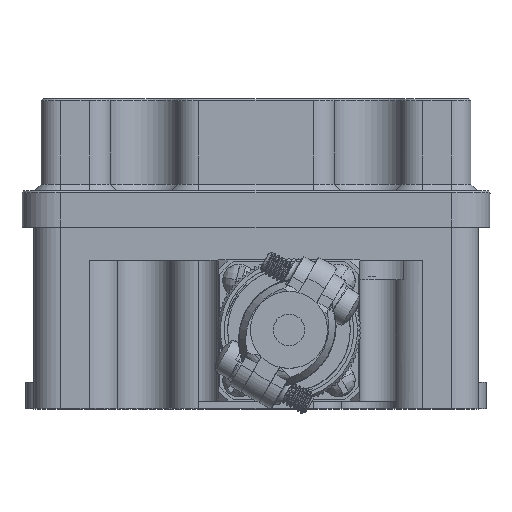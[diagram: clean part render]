
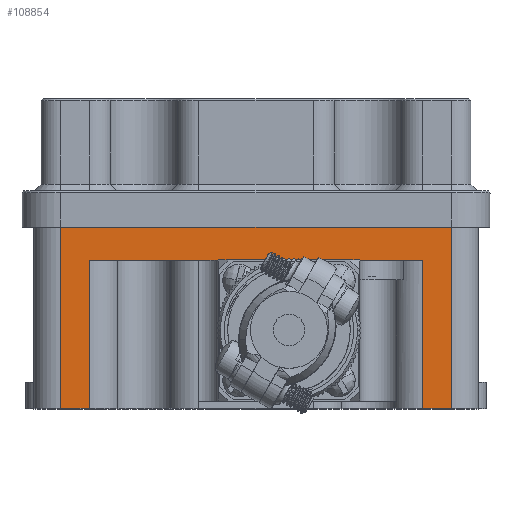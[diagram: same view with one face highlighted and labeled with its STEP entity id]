
A CAD part, top view. The second image highlights one B-rep face of the part: STEP entity #108854.
In plain terms, the highlighted planar face has unit normal (0, 0, 1).
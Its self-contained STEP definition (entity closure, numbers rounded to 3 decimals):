
#346 = CARTESIAN_POINT ( 'NONE',  ( -29.65, -41.945, 33.75 ) ) ;
#7347 = VERTEX_POINT ( 'NONE', #151745 ) ;
#7424 = CARTESIAN_POINT ( 'NONE',  ( -8.699, -5., 33.75 ) ) ;
#8377 = CARTESIAN_POINT ( 'NONE',  ( -8.699, -5., 33.75 ) ) ;
#9302 = EDGE_CURVE ( 'NONE', #108836, #9372, #119914, .T. ) ;
#9372 = VERTEX_POINT ( 'NONE', #104551 ) ;
#11167 = VERTEX_POINT ( 'NONE', #24350 ) ;
#11914 = CARTESIAN_POINT ( 'NONE',  ( -25.307, -27.5, 33.75 ) ) ;
#13749 = EDGE_CURVE ( 'NONE', #48017, #124423, #118477, .T. ) ;
#14205 = ORIENTED_EDGE ( 'NONE', *, *, #162630, .F. ) ;
#15402 = DIRECTION ( 'NONE',  ( -1., 0., 0. ) ) ;
#18271 = DIRECTION ( 'NONE',  ( 0., 1., 0. ) ) ;
#19562 = LINE ( 'NONE', #119089, #89259 ) ;
#20461 = CARTESIAN_POINT ( 'NONE',  ( 30.3, -27.5, 33.75 ) ) ;
#24350 = CARTESIAN_POINT ( 'NONE',  ( -25.307, -5., 33.75 ) ) ;
#24408 = LINE ( 'NONE', #72912, #114478 ) ;
#25481 = CARTESIAN_POINT ( 'NONE',  ( -25.307, -41.945, 33.75 ) ) ;
#31014 = ORIENTED_EDGE ( 'NONE', *, *, #44316, .T. ) ;
#31225 = CARTESIAN_POINT ( 'NONE',  ( 29.65, -27.5, 33.75 ) ) ;
#36106 = VECTOR ( 'NONE', #86907, 1000. ) ;
#38177 = ORIENTED_EDGE ( 'NONE', *, *, #88026, .T. ) ;
#41527 = VERTEX_POINT ( 'NONE', #31225 ) ;
#43867 = DIRECTION ( 'NONE',  ( 1., 0., 0. ) ) ;
#44316 = EDGE_CURVE ( 'NONE', #11167, #83383, #24408, .T. ) ;
#47710 = CARTESIAN_POINT ( 'NONE',  ( 16.189, -5., 33.75 ) ) ;
#48017 = VERTEX_POINT ( 'NONE', #11914 ) ;
#48685 = EDGE_CURVE ( 'NONE', #149541, #83383, #152327, .T. ) ;
#49432 = ORIENTED_EDGE ( 'NONE', *, *, #65496, .T. ) ;
#49529 = VECTOR ( 'NONE', #115604, 1000. ) ;
#50431 = LINE ( 'NONE', #114273, #59433 ) ;
#54692 = ORIENTED_EDGE ( 'NONE', *, *, #116980, .T. ) ;
#57055 = ORIENTED_EDGE ( 'NONE', *, *, #166229, .T. ) ;
#57092 = CARTESIAN_POINT ( 'NONE',  ( 29.65, -41.945, 33.75 ) ) ;
#59433 = VECTOR ( 'NONE', #15402, 1000. ) ;
#59651 = VECTOR ( 'NONE', #18271, 1000. ) ;
#60976 = ORIENTED_EDGE ( 'NONE', *, *, #13749, .F. ) ;
#62121 = VECTOR ( 'NONE', #150147, 1000. ) ;
#63222 = CARTESIAN_POINT ( 'NONE',  ( -8.703, -5., 33.75 ) ) ;
#65496 = EDGE_CURVE ( 'NONE', #48017, #11167, #99166, .T. ) ;
#68556 = CARTESIAN_POINT ( 'NONE',  ( 29.65, -5., 33.75 ) ) ;
#69805 = LINE ( 'NONE', #144231, #36106 ) ;
#72912 = CARTESIAN_POINT ( 'NONE',  ( 29.65, -5., 33.75 ) ) ;
#73403 = DIRECTION ( 'NONE',  ( 0., 0., 1. ) ) ;
#76864 = DIRECTION ( 'NONE',  ( 0., 1., 0. ) ) ;
#77646 = ORIENTED_EDGE ( 'NONE', *, *, #170316, .T. ) ;
#80008 = CARTESIAN_POINT ( 'NONE',  ( -29.65, -27.5, 33.75 ) ) ;
#83383 = VERTEX_POINT ( 'NONE', #94892 ) ;
#83503 = ORIENTED_EDGE ( 'NONE', *, *, #48685, .F. ) ;
#86907 = DIRECTION ( 'NONE',  ( -1., 0., 0. ) ) ;
#88026 = EDGE_CURVE ( 'NONE', #111250, #124423, #184774, .T. ) ;
#89259 = VECTOR ( 'NONE', #163238, 1000. ) ;
#91458 = EDGE_CURVE ( 'NONE', #41527, #7347, #145455, .T. ) ;
#94892 = CARTESIAN_POINT ( 'NONE',  ( -8.703, -5., 33.75 ) ) ;
#99166 = LINE ( 'NONE', #25481, #184953 ) ;
#100119 = VECTOR ( 'NONE', #183890, 1000. ) ;
#102838 = CARTESIAN_POINT ( 'NONE',  ( -29.65, 0., 33.75 ) ) ;
#104551 = CARTESIAN_POINT ( 'NONE',  ( 25.307, -5., 33.75 ) ) ;
#104619 = LINE ( 'NONE', #68556, #100119 ) ;
#105869 = FACE_OUTER_BOUND ( 'NONE', #159550, .T. ) ;
#108836 = VERTEX_POINT ( 'NONE', #171984 ) ;
#108854 = ADVANCED_FACE ( 'NONE', ( #105869 ), #130095, .T. ) ;
#111250 = VERTEX_POINT ( 'NONE', #102838 ) ;
#114273 = CARTESIAN_POINT ( 'NONE',  ( 29.65, 0., 33.75 ) ) ;
#114478 = VECTOR ( 'NONE', #187015, 1000. ) ;
#115604 = DIRECTION ( 'NONE',  ( 0., -1., 0. ) ) ;
#116980 = EDGE_CURVE ( 'NONE', #7347, #111250, #50431, .T. ) ;
#118477 = LINE ( 'NONE', #20461, #62121 ) ;
#119089 = CARTESIAN_POINT ( 'NONE',  ( 29.65, -5., 33.75 ) ) ;
#119914 = LINE ( 'NONE', #132321, #180963 ) ;
#120461 = AXIS2_PLACEMENT_3D ( 'NONE', #57092, #73403, #43867 ) ;
#123219 = ORIENTED_EDGE ( 'NONE', *, *, #9302, .F. ) ;
#123637 = CARTESIAN_POINT ( 'NONE',  ( -8.702, -5., 33.75 ) ) ;
#124423 = VERTEX_POINT ( 'NONE', #80008 ) ;
#130095 = PLANE ( 'NONE',  #120461 ) ;
#131830 = ORIENTED_EDGE ( 'NONE', *, *, #91458, .T. ) ;
#132321 = CARTESIAN_POINT ( 'NONE',  ( 25.307, -27.5, 33.75 ) ) ;
#138137 = CARTESIAN_POINT ( 'NONE',  ( -8.701, -5., 33.75 ) ) ;
#141304 = DIRECTION ( 'NONE',  ( 0., 1., 0. ) ) ;
#144231 = CARTESIAN_POINT ( 'NONE',  ( 30.3, -27.5, 33.75 ) ) ;
#145455 = LINE ( 'NONE', #171428, #59651 ) ;
#149541 = VERTEX_POINT ( 'NONE', #7424 ) ;
#150147 = DIRECTION ( 'NONE',  ( -1., 0., 0. ) ) ;
#151745 = CARTESIAN_POINT ( 'NONE',  ( 29.65, 0., 33.75 ) ) ;
#152327 = B_SPLINE_CURVE_WITH_KNOTS ( 'NONE', 3,
 ( #8377, #138137, #123637, #63222 ),
 .UNSPECIFIED., .F., .F.,
 ( 4, 4 ),
 ( 0., 1. ),
 .UNSPECIFIED. ) ;
#159550 = EDGE_LOOP ( 'NONE', ( #60976, #49432, #31014, #83503, #57055, #77646, #123219, #14205, #131830, #54692, #38177 ) ) ;
#162630 = EDGE_CURVE ( 'NONE', #41527, #108836, #69805, .T. ) ;
#163238 = DIRECTION ( 'NONE',  ( 1., 0., 0. ) ) ;
#166229 = EDGE_CURVE ( 'NONE', #149541, #185160, #104619, .T. ) ;
#170316 = EDGE_CURVE ( 'NONE', #185160, #9372, #19562, .T. ) ;
#171428 = CARTESIAN_POINT ( 'NONE',  ( 29.65, -41.945, 33.75 ) ) ;
#171984 = CARTESIAN_POINT ( 'NONE',  ( 25.307, -27.5, 33.75 ) ) ;
#180963 = VECTOR ( 'NONE', #76864, 1000. ) ;
#183890 = DIRECTION ( 'NONE',  ( 1., 0., 0. ) ) ;
#184774 = LINE ( 'NONE', #346, #49529 ) ;
#184953 = VECTOR ( 'NONE', #141304, 1000. ) ;
#185160 = VERTEX_POINT ( 'NONE', #47710 ) ;
#187015 = DIRECTION ( 'NONE',  ( 1., 0., 0. ) ) ;
